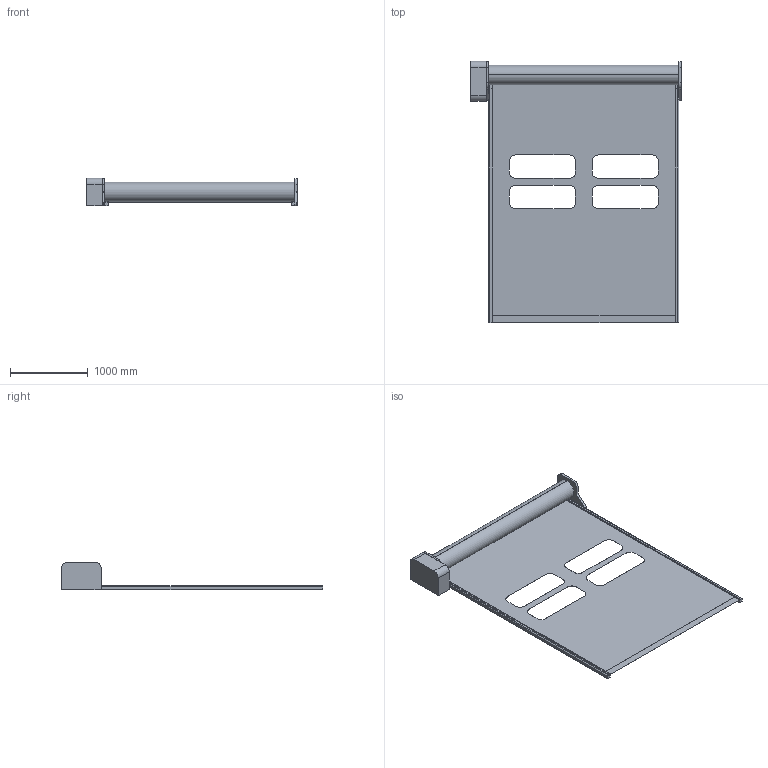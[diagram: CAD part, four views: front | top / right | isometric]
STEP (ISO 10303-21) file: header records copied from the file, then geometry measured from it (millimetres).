
FILE_DESCRIPTION (( 'STEP AP203' ), '1' );
FILE_NAME ('Dyn_PE_no carter.STEP', '2018-07-18T09:01:02', ( '' ), ( '' ), 'SwSTEP 2.0', 'SolidWorks 2018', '' );
FILE_SCHEMA (( 'CONFIG_CONTROL_DESIGN' ));
Length unit declared in the file: millimetre
Products named in the file (1): Dyn_PE_no carter
Bounding box: 2700 x 3350 x 350 mm (x, y, z)
Volume: 70153363 mm3; surface area: 19797479.8 mm2
Topology: 10 solids, 10 shells, 160 faces, 420 edges, 280 vertices
Faces by surface type: plane 124, cylinder 36
Entity records: 4975 total; most frequent: CARTESIAN_POINT 861, ORIENTED_EDGE 840, DIRECTION 814, EDGE_CURVE 420, VECTOR 348, LINE 348, VERTEX_POINT 280, AXIS2_PLACEMENT_3D 233
